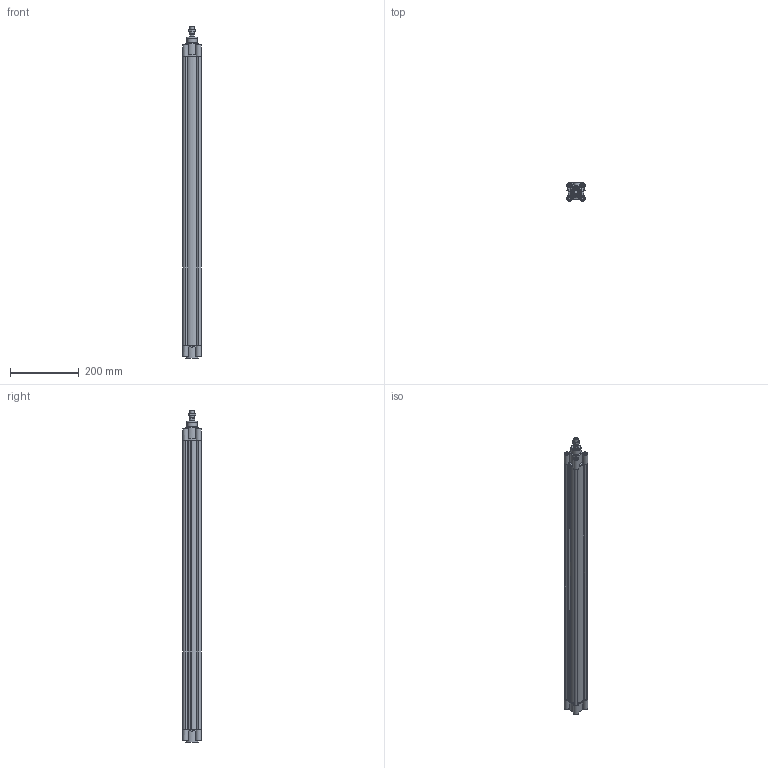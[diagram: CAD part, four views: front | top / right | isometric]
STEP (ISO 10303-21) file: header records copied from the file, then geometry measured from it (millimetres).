
FILE_DESCRIPTION((''),'2;1');
FILE_NAME('I:\Area Tecnica\Disegni\VARIE-3D\Componenti\ECOLIGHT\139#.##_0000_01\stp\139#_40_0800_01.iam.stp','2012-01-28T07:59:43',(''),(''),'Autodesk Inventor 2012','Autodesk Inventor 2012','');
FILE_SCHEMA(('AUTOMOTIVE_DESIGN { 1 0 10303 214 1 1 1 1 }'));
Length unit declared in the file: millimetre
Products named in the file (6): 139#_40_0800_01; CPL040_004-800; CPL040-001-01; CPL040-002-01; CPL_40_0800; 1320_40_18F
Assembly tree (5 placements, depth 2):
  139#_40_0800_01
    CPL040_004-800
    CPL040-001-01
    CPL040-002-01
    CPL_40_0800
    1320_40_18F
Bounding box: 54 x 54 x 964 mm (x, y, z)
Volume: 906425.6 mm3; surface area: 533358.6 mm2
Topology: 5 solids, 5 shells, 316 faces, 788 edges, 522 vertices
Faces by surface type: plane 200, cylinder 91, cone 24, torus 1
Full cylindrical faces by diameter (mm): 5 x8, 5.5 x4, 8 x2, 10 x8, 10.5 x9, 10.8 x1, 11.6 x2, 12 x1, 15.5 x1, 16 x2, 30 x1, 35 x2, 40 x4
Entity records: 9416 total; most frequent: CARTESIAN_POINT 1761, DIRECTION 1538, ORIENTED_EDGE 1442, EDGE_CURVE 721, AXIS2_PLACEMENT_3D 544, VERTEX_POINT 507, VECTOR 450, LINE 450
